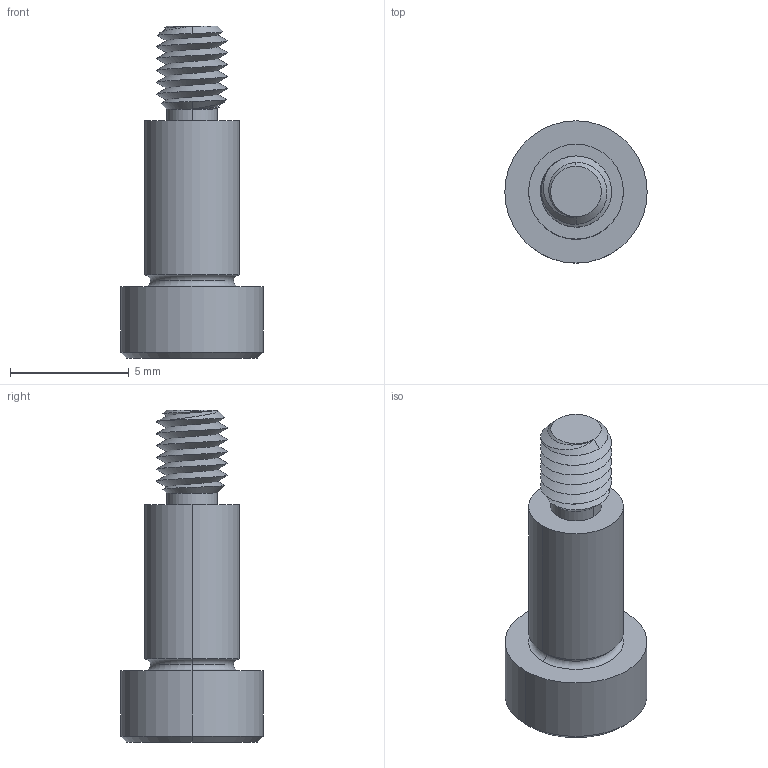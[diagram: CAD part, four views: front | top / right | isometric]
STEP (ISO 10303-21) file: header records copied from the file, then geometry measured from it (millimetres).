
FILE_DESCRIPTION (( 'STEP AP203' ), '1' );
FILE_NAME ('P0130.040-007-B2.step', '2021-11-09T21:02:13', ( '' ), ( '' ), 'SwSTEP 2.0', 'SolidWorks 2019', '' );
FILE_SCHEMA (( 'CONFIG_CONTROL_DESIGN' ));
Length unit declared in the file: millimetre
Products named in the file (1): P0130.040-007-B2
Bounding box: 6 x 6 x 14 mm (x, y, z)
Volume: 183.1 mm3; surface area: 272.3 mm2
Topology: 1 solids, 1 shells, 54 faces, 124 edges, 73 vertices
Faces by surface type: cylinder 18, plane 16, cone 14, torus 4, bspline 2
Entity records: 2218 total; most frequent: CARTESIAN_POINT 1016, ORIENTED_EDGE 244, DIRECTION 229, EDGE_CURVE 122, AXIS2_PLACEMENT_3D 93, VERTEX_POINT 73, EDGE_LOOP 57, ADVANCED_FACE 54
